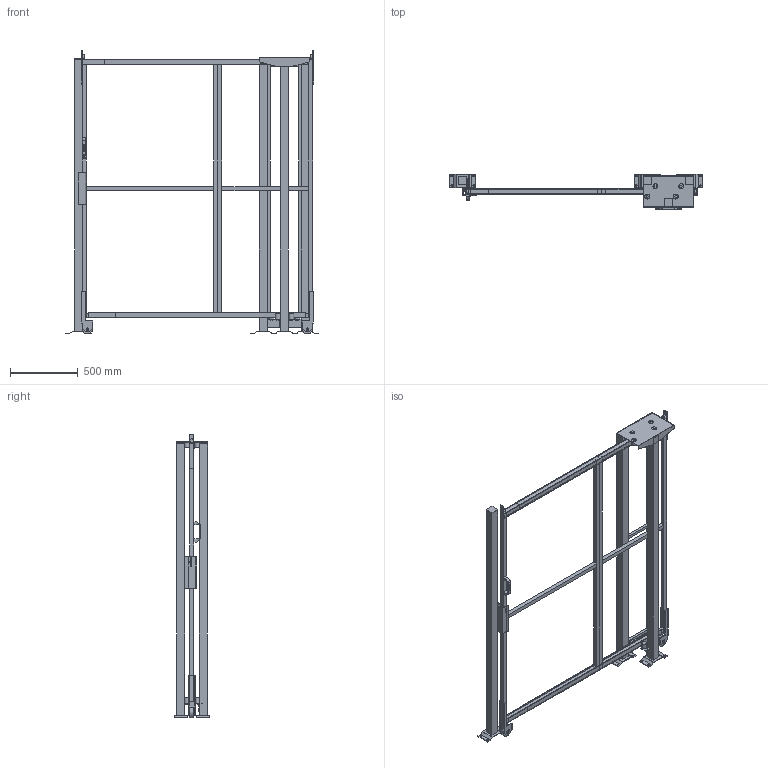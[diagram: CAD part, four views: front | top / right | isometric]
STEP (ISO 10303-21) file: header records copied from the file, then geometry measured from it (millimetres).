
FILE_DESCRIPTION(/* description */ (''),/* implementation_level */ '2;1');
FILE_NAME(/* name */ 'C:\SafeGuarding\ELABORATI\KLADKA_2025-03-18-13-15-33.stp',/* time_stamp */ '2025-03-18T13:15:35+01:00',/* author */ ('admin'),/* organization */ (''),/* preprocessor_version */ 'ST-DEVELOPER v18.1',/* originating_system */ 'AutoCAD Mechanical',/* authorisation */ '');
FILE_SCHEMA (('AUTOMOTIVE_DESIGN { 1 0 10303 214 3 1 1 }','INTEGRATED_CNC_SCHEMA'));
Length unit declared in the file: millimetre
Products named in the file (5): Product; R_VFPA.REPE30.07001900; R_VFPA.REPE30.10001900; R_VFPA.REPE20.02501900; P_VFMA.V260SDU.2020
Assembly tree (7 placements, depth 2):
  Product
    R_VFPA.REPE30.07001900
    R_VFPA.REPE30.10001900
    R_VFPA.REPE20.02501900
    P_VFMA.V260SDU.2020  x4
Bounding box: 1862.02 x 264.1 x 2090.02 mm (x, y, z)
Volume: 45310054.2 mm3; surface area: 6172003.9 mm2
Topology: 61 solids, 72 shells, 555 faces, 1686 edges, 1685 vertices
Faces by surface type: plane 503, cylinder 50, sphere 2
Full cylindrical faces by diameter (mm): 9 x4, 11 x16, 13 x4, 30 x6, 36 x8, 80 x2
Entity records: 15882 total; most frequent: CARTESIAN_POINT 3394, DIRECTION 2415, ORIENTED_EDGE 2202, LINE 1163, VECTOR 1163, EDGE_CURVE 1150, VERTEX_POINT 806, AXIS2_PLACEMENT_3D 626
